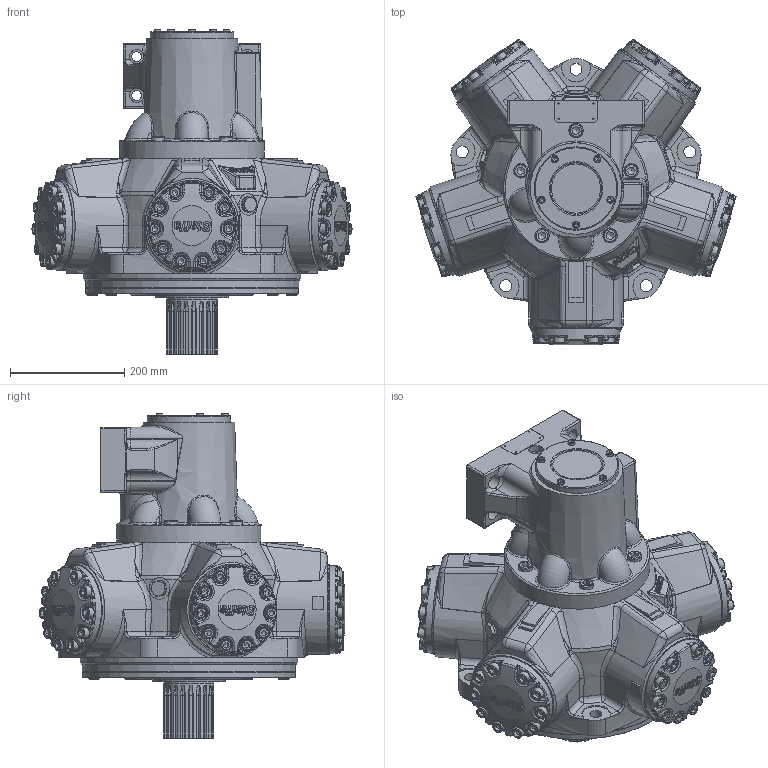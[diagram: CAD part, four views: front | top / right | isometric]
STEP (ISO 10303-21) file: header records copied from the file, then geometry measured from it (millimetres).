
FILE_DESCRIPTION(/* description */ (''),/* implementation_level */ '2;1');
FILE_NAME(/* name */ 'HMB125_S3_SM4_70.stp',/* time_stamp */ '2025-12-18T16:09:20Z',/* author */ ('ccallanga'),/* organization */ (''),/* preprocessor_version */ 'ST-DEVELOPER v20',/* originating_system */ 'Autodesk Inventor 2024',/* authorisation */ '');
FILE_SCHEMA (('AUTOMOTIVE_DESIGN { 1 0 10303 214 3 1 1 }'));
Products named in the file (1): HMB125 Web Assembly_Simplify_1
Bounding box: 560.55 x 535.61 x 570.7 mm (x, y, z)
Volume: 42484186.2 mm3; surface area: 1146255 mm2
Topology: 1 solids, 1 shells, 4678 faces, 11363 edges, 6717 vertices
Faces by surface type: bspline 1759, plane 1220, cylinder 969, torus 444, cone 148, sphere 138
Full cylindrical faces by diameter (mm): 2.2 x4, 11.328 x2, 11.913 x5, 12.7 x5, 16.51 x1, 17 x4, 17.323 x1, 19.05 x60, 20.637 x60, 21 x5, 23.825 x5, 25 x4, 25.4 x5, 26.92 x2, 38 x2, 38.1 x3, 87.953 x1, 88.837 x1, 92.964 x1, 127 x1, 146.05 x1, 158.75 x5, 254 x1, 373.255 x1, 373.596 x1, 380.911 x1
Entity records: 230755 total; most frequent: CARTESIAN_POINT 130323, ORIENTED_EDGE 22288, DIRECTION 15965, EDGE_CURVE 11144, VERTEX_POINT 6717, AXIS2_PLACEMENT_3D 6270, EDGE_LOOP 4945, STYLED_ITEM 4679
